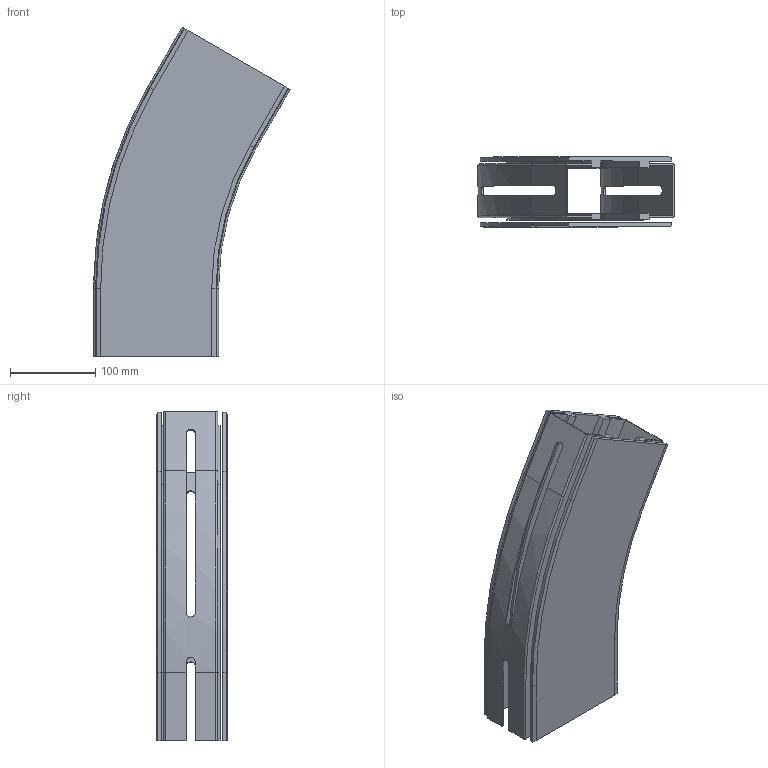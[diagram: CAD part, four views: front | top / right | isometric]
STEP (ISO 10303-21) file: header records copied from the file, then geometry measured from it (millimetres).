
FILE_DESCRIPTION(/* description */ ('GLIDKURVA SERIE 540'),/* implementation_level */ '2;1');
FILE_NAME(/* name */ '540-5375+140-2000-01.stp',/* time_stamp */ '2022-09-21T08:30:25+02:00',/* author */ ('Mathias.Dore'),/* organization */ ('CARRYLINE'),/* preprocessor_version */ 'ST-DEVELOPER v19.2',/* originating_system */ 'Autodesk Inventor 2023',/* authorisation */ '');
FILE_SCHEMA (('AUTOMOTIVE_DESIGN { 1 0 10303 214 3 1 1 }'));
Length unit declared in the file: millimetre
Products named in the file (1): 540-5375+140-2000-01
Bounding box: 229.81 x 82 x 385.78 mm (x, y, z)
Volume: 834436.5 mm3; surface area: 432316 mm2
Topology: 2 solids, 2 shells, 163 faces, 458 edges, 300 vertices
Faces by surface type: plane 107, cylinder 30, bspline 18, cone 4, torus 4
Entity records: 5621 total; most frequent: CARTESIAN_POINT 1352, ORIENTED_EDGE 916, DIRECTION 798, EDGE_CURVE 458, LINE 338, VECTOR 338, VERTEX_POINT 300, AXIS2_PLACEMENT_3D 230
